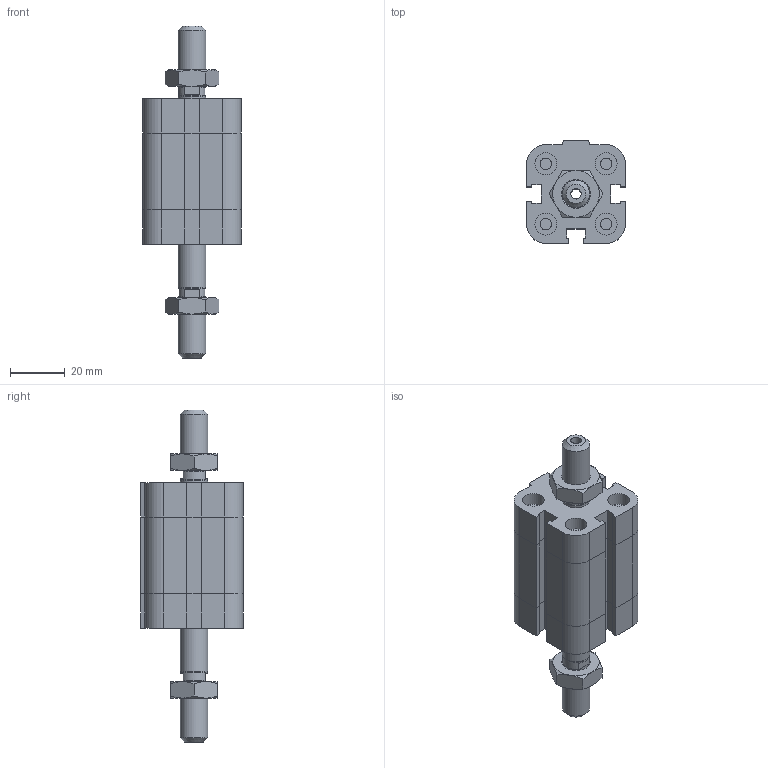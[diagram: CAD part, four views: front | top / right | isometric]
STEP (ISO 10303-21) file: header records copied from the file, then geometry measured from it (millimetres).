
FILE_DESCRIPTION((''),'2;1');
FILE_NAME('I:\Area Tecnica\Disegni\VARIE-3D\Componenti\EUROPE\15##_###_####_05_#\1581_20_0015_05_1.iam.stp','2009-04-20T14:59:48',(''),(''),'Autodesk Inventor 2009','Autodesk Inventor 2009','');
FILE_SCHEMA(('AUTOMOTIVE_DESIGN { 1 0 10303 214 1 1 1 1 }'));
Length unit declared in the file: millimetre
Products named in the file (4): 1581_20_0015_05_1; 1581_20_0015_03_1_C; 1561_20_0015_05_1_S; DBFM10
Assembly tree (4 placements, depth 2):
  1581_20_0015_05_1
    1581_20_0015_03_1_C
    1561_20_0015_05_1_S
    DBFM10  x2
Bounding box: 36 x 37.5 x 121 mm (x, y, z)
Volume: 64240.3 mm3; surface area: 22905.9 mm2
Topology: 4 solids, 4 shells, 223 faces, 486 edges, 291 vertices
Faces by surface type: plane 129, cone 35, bspline 34, cylinder 25
Full cylindrical faces by diameter (mm): 4.134 x4, 7.9 x1, 8 x4, 9.8 x2, 10 x2
Entity records: 5497 total; most frequent: CARTESIAN_POINT 1244, DIRECTION 806, ORIENTED_EDGE 776, EDGE_CURVE 388, AXIS2_PLACEMENT_3D 274, EDGE_LOOP 262, VECTOR 258, LINE 258
